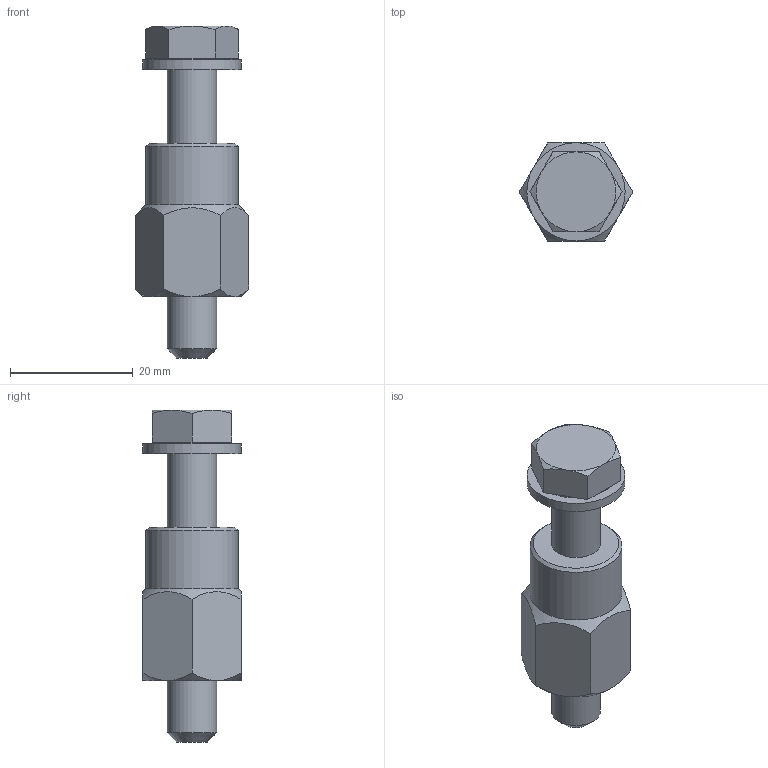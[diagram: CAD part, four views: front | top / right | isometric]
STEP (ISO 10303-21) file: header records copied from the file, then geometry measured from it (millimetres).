
FILE_DESCRIPTION( ( 'Unknown' ), '1' );
FILE_NAME( 'I:/Area_Tecnica/SolidEdge/Archivio/In_Lavoro/DaApprovare/stazione_15/STP/FAC_VA6212.025.stp', 'Unknown', ( 'Unknown' ), ( 'Unknown' ), 'PSStep 17.0.49', 'Unknown', ' ' );
FILE_SCHEMA( ( 'AUTOMOTIVE_DESIGN { 1 0 10303 214 1 1 1 1 }' ) );
Length unit declared in the file: millimetre
Products named in the file (1): Vite TE M8 L25 FilTot
Bounding box: 18.48 x 16 x 54.1 mm (x, y, z)
Volume: 7037.4 mm3; surface area: 3167.4 mm2
Topology: 1 solids, 2 shells, 59 faces, 125 edges, 74 vertices
Faces by surface type: plane 26, cone 25, cylinder 7, torus 1
Full cylindrical faces by diameter (mm): 6.647 x1, 8 x2, 8.4 x1, 12.9 x1, 15 x1, 16 x1
Entity records: 2132 total; most frequent: CARTESIAN_POINT 548, DIRECTION 216, ORIENTED_EDGE 204, EDGE_CURVE 102, AXIS2_PLACEMENT_3D 96, EDGE_LOOP 78, VERTEX_POINT 68, FACE_OUTER_BOUND 67
